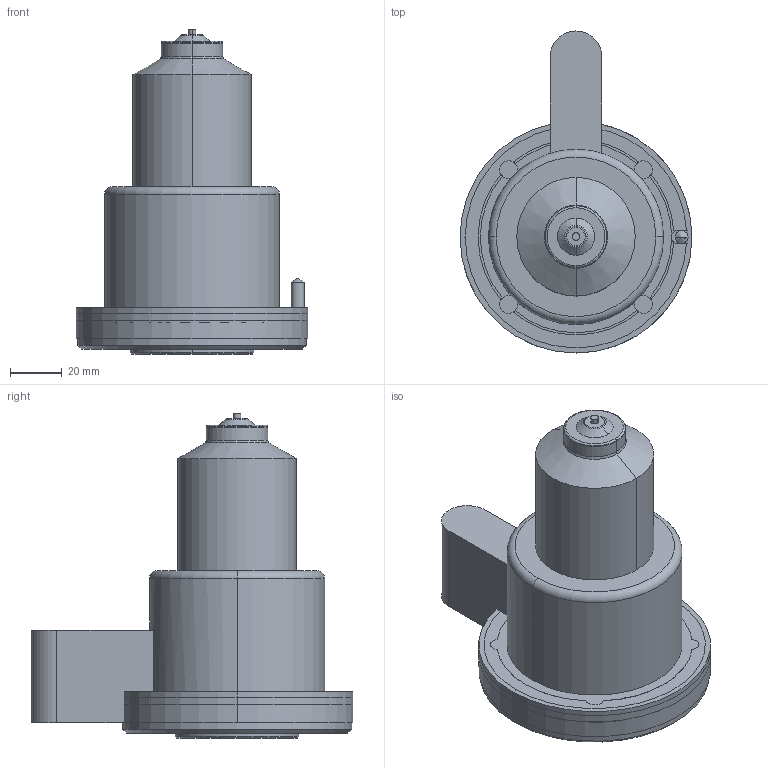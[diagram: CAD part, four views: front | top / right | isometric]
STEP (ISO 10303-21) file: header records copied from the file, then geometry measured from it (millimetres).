
FILE_DESCRIPTION (( 'STEP AP214' ), '1' );
FILE_NAME ('SR16_OPEN_120_BAND.STEP', '2009-05-07T15:36:20', ( 'Synventive Molding Solutions' ), ( 'Synventive Molding Solutions' ), 'SwSTEP 2.0', 'SolidWorks 2008', '' );
FILE_SCHEMA (( 'AUTOMOTIVE_DESIGN' ));
Length unit declared in the file: millimetre
Products named in the file (1): SR16_OPEN_120_BAND
Bounding box: 90 x 125 x 126 mm (x, y, z)
Volume: 598845.3 mm3; surface area: 76269.4 mm2
Topology: 3 solids, 3 shells, 300 faces, 776 edges, 487 vertices
Faces by surface type: cylinder 117, plane 98, torus 45, cone 36, bspline 2, sphere 2
Entity records: 13394 total; most frequent: CARTESIAN_POINT 2547, DIRECTION 1666, ORIENTED_EDGE 1544, EDGE_CURVE 772, AXIS2_PLACEMENT_3D 669, VERTEX_POINT 487, CIRCLE 370, EDGE_LOOP 329
